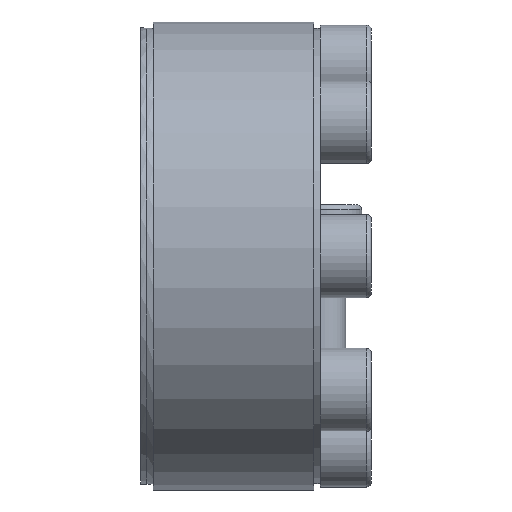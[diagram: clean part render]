
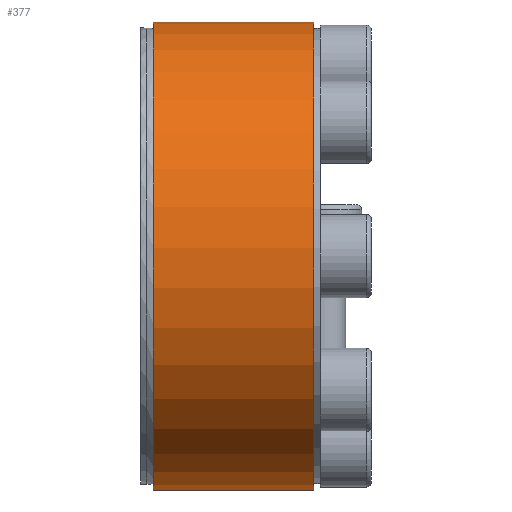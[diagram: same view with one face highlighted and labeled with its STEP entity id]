
A CAD part, left-side view. The second image highlights one B-rep face of the part: STEP entity #377.
In plain terms, the highlighted cylindrical face has radius 36.5 mm (diameter 73 mm), a partial arc.
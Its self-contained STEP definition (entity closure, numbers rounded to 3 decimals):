
#377 = ADVANCED_FACE( '', ( #586 ), #587, .T. );
#586 = FACE_OUTER_BOUND( '', #730, .T. );
#587 = CYLINDRICAL_SURFACE( '', #731, 36.5 );
#730 = EDGE_LOOP( '', ( #899, #900, #901, #902 ) );
#731 = AXIS2_PLACEMENT_3D( '', #903, #904, #905 );
#899 = ORIENTED_EDGE( '', *, *, #1247, .F. );
#900 = ORIENTED_EDGE( '', *, *, #1248, .T. );
#901 = ORIENTED_EDGE( '', *, *, #1249, .T. );
#902 = ORIENTED_EDGE( '', *, *, #1250, .F. );
#903 = CARTESIAN_POINT( '', ( 0., -60., 0. ) );
#904 = DIRECTION( '', ( 0., 1., 0. ) );
#905 = DIRECTION( '', ( 0., 0., -1. ) );
#1247 = EDGE_CURVE( '', #1383, #1384, #1385, .T. );
#1248 = EDGE_CURVE( '', #1383, #1386, #1387, .F. );
#1249 = EDGE_CURVE( '', #1386, #1388, #1389, .T. );
#1250 = EDGE_CURVE( '', #1384, #1388, #1390, .F. );
#1383 = VERTEX_POINT( '', #1493 );
#1384 = VERTEX_POINT( '', #1494 );
#1385 = CIRCLE( '', #1495, 36.5 );
#1386 = VERTEX_POINT( '', #1496 );
#1387 = LINE( '', #1497, #1498 );
#1388 = VERTEX_POINT( '', #1499 );
#1389 = CIRCLE( '', #1500, 36.5 );
#1390 = LINE( '', #1501, #1502 );
#1493 = CARTESIAN_POINT( '', ( 13.272, 1., 34.001 ) );
#1494 = CARTESIAN_POINT( '', ( 14.658, 1., 33.427 ) );
#1495 = AXIS2_PLACEMENT_3D( '', #1650, #1651, #1652 );
#1496 = CARTESIAN_POINT( '', ( 13.272, 26., 34.001 ) );
#1497 = CARTESIAN_POINT( '', ( 13.272, -60., 34.001 ) );
#1498 = VECTOR( '', #1653, 1000. );
#1499 = CARTESIAN_POINT( '', ( 14.658, 26., 33.427 ) );
#1500 = AXIS2_PLACEMENT_3D( '', #1654, #1655, #1656 );
#1501 = CARTESIAN_POINT( '', ( 14.658, -60., 33.427 ) );
#1502 = VECTOR( '', #1657, 1000. );
#1650 = CARTESIAN_POINT( '', ( 0., 1., 0. ) );
#1651 = DIRECTION( '', ( 0., -1., 0. ) );
#1652 = DIRECTION( '', ( 0., 0., -1. ) );
#1653 = DIRECTION( '', ( 0., -1., 0. ) );
#1654 = CARTESIAN_POINT( '', ( 0., 26., 0. ) );
#1655 = DIRECTION( '', ( 0., -1., 0. ) );
#1656 = DIRECTION( '', ( 0., 0., -1. ) );
#1657 = DIRECTION( '', ( 0., -1., 0. ) );
